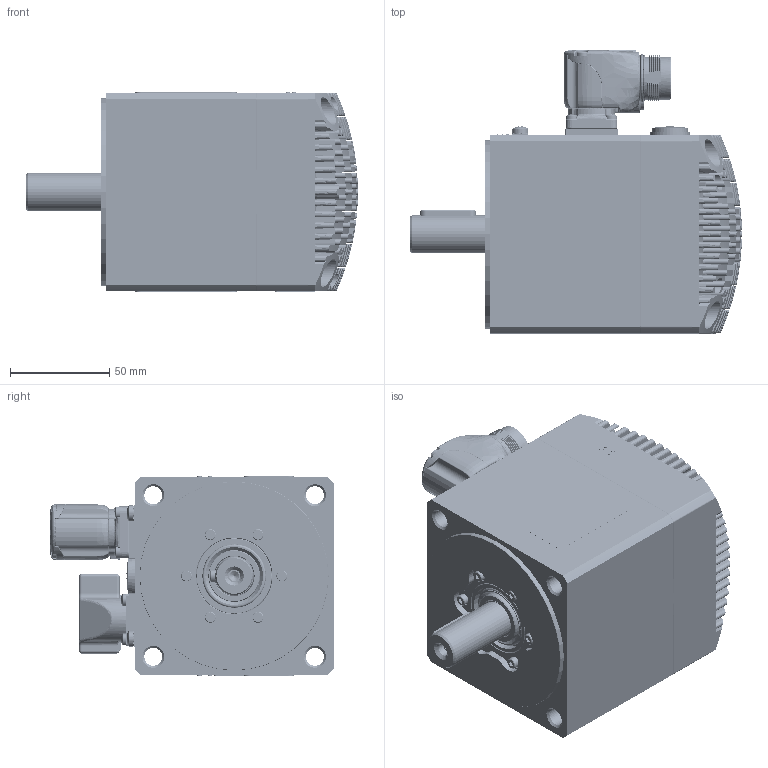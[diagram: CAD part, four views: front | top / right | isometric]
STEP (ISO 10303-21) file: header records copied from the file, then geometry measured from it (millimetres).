
FILE_DESCRIPTION((''),'2;1');
FILE_NAME('32190015646_ASM','2022-04-13T09:00:29',('gabrielec'),(''),'CREO PARAMETRIC BY PTC INC, 2021304','CREO PARAMETRIC BY PTC INC, 2021304','');
FILE_SCHEMA(('AP242_MANAGED_MODEL_BASED_3D_ENGINEERING_MIM_LF { 1 0 10303 442 1 1 4 }'));
Products named in the file (37): 50992N-0; 32149915563_ASM; 22320015066; 22320015066_ASM; 32050015010_ASM; 32060015505_ASM; 51941N-1; 32090015022_ASM; NRG_001; M3X16_GBT70-1; GB_T862_1; M4X8_GBT818_CU; 32159915173_ASM; 22160015160; MENTOR-1292_9013; CEMBRE_FD9; CEMBRE_2053M16N; 32150015177_ASM; PHOENIX-1605586; 33000015098_AF4_ASM; UNI7687_M3X8_INOX; CAN_OPEN; 33200203857_ASM; 31500203857_AF1_ASM; 50941N-0; UNI7687_M3X6_INOX; UNI5931_M3X6_INOX; 22210015021; 32150015175_ASM; UNI5931_M4X16; LIP_SEAL_TW05; 22250015024; 22250015126; 43500000229; 43500000050; L_6X6-28_UNI6604; 32190015646_ASM
Assembly tree (64 placements, depth 7):
  32190015646_ASM
    32159915173_ASM
      32149915563_ASM
        50992N-0
      32090015022_ASM
        32060015505_ASM
          32050015010_ASM
            22320015066_ASM
              22320015066
        51941N-1
      NRG_001  x6
      M3X16_GBT70-1  x6
      GB_T862_1  x2
      M4X8_GBT818_CU  x2
    32150015177_ASM
      22160015160
      MENTOR-1292_9013  x8
      CEMBRE_FD9
      CEMBRE_2053M16N
    33000015098_AF4_ASM
      PHOENIX-1605586
    UNI7687_M3X8_INOX  x4
    31500203857_AF1_ASM
      33200203857_ASM
        CAN_OPEN
    50941N-0  x2
    UNI7687_M3X6_INOX  x3
    UNI5931_M3X6_INOX
    32150015175_ASM
      22210015021
    UNI5931_M4X16  x4
    LIP_SEAL_TW05
    22250015024
    22250015126
    43500000229
    43500000050
    L_6X6-28_UNI6604
Bounding box: 167 x 142.41 x 100.8 mm (x, y, z)
Volume: 500405.6 mm3; surface area: 252841 mm2
Topology: 73 solids, 100 shells, 4547 faces, 11414 edges, 7231 vertices
Faces by surface type: plane 1574, cylinder 1079, cone 663, bspline 612, torus 354, sphere 243, revolution 11, extrusion 11
Entity records: 198009 total; most frequent: CARTESIAN_POINT 67770, ORIENTED_EDGE 20136, DIRECTION 18240, PRESENTATION_STYLE_ASSIGNMENT 10563, STYLED_ITEM 10149, EDGE_CURVE 10121, CURVE_STYLE 10077, AXIS2_PLACEMENT_3D 7068
